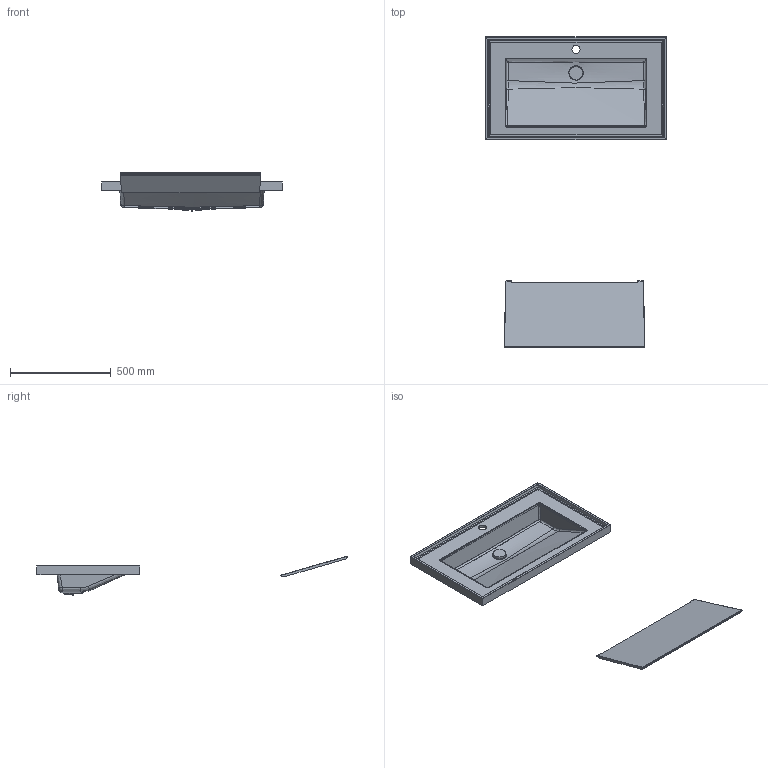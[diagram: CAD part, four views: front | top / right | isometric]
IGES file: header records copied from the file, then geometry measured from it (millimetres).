
Start section: Data from Parasolid IGES Translator 19.0.9, Copyright(c) 2006 Siemens PL M Software. All Rights Reserved.
Global section: file name: noorth-top-H 4,5 D 51,3 W 90_2943.igs; native system: By Siemens PLM Incorporated; preprocessor: XPlus GENERIC/IGES 19.0.9; author: Noname; organization: Noname; date: 20200709.102537; units: metre
Bounding box: 900 x 1541.85 x 196.29 mm (x, y, z)
Volume: 6833428.5 mm3; surface area: 1952845.2 mm2
Topology: 7 solids, 7 shells, 186 faces, 668 edges, 557 vertices
Faces by surface type: plane 71, bspline 70, cylinder 27, extrusion 17, revolution 1
Full cylindrical faces by diameter (mm): 64 x1
